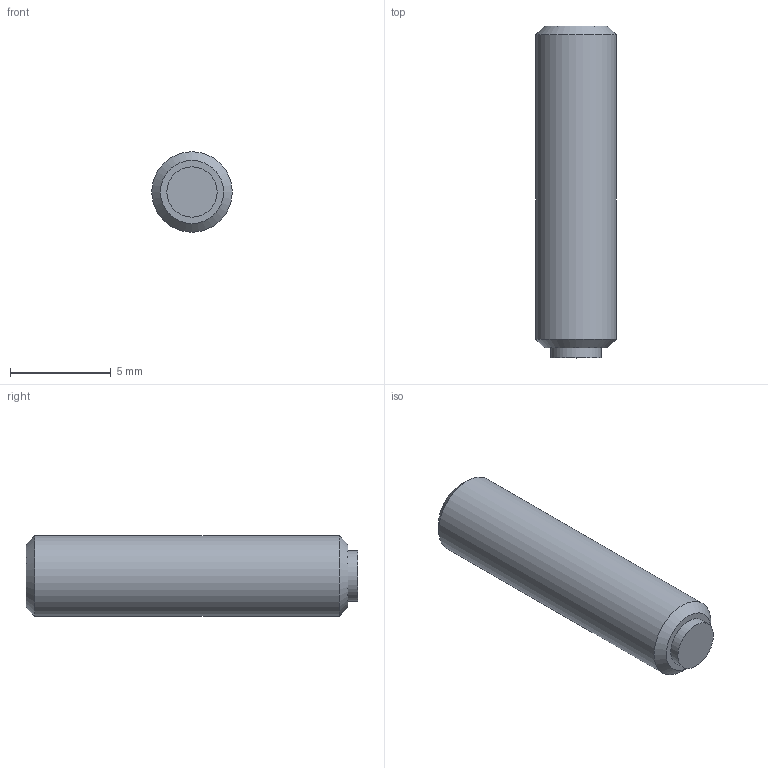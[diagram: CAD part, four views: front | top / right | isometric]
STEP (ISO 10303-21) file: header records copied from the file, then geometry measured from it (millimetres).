
FILE_DESCRIPTION( ( 'STEP AP203' ), '1' );
FILE_NAME( 'C:/Temp/Ganter_Step_05_03_2020/data/3_2/gn913_3/Grub screw GN 913.3-M4-16-MS.stp', '2020-03-13T05:35:45', ( 'License CC BY-ND 4.0' ), ( 'CADENAS' ), ' ', 'PARTsolutions', ' ' );
FILE_SCHEMA( ( 'CONFIG_CONTROL_DESIGN' ) );
Length unit declared in the file: millimetre
Products named in the file (1): _Grub screw GN 913.3-M4-16-MS
Bounding box: 4 x 16.5 x 4 mm (x, y, z)
Volume: 192.7 mm3; surface area: 240.6 mm2
Topology: 1 solids, 1 shells, 14 faces, 28 edges, 18 vertices
Faces by surface type: plane 10, cylinder 2, cone 2
Full cylindrical faces by diameter (mm): 2.5 x1, 4 x1
Entity records: 386 total; most frequent: DIRECTION 60, CARTESIAN_POINT 57, ORIENTED_EDGE 48, EDGE_CURVE 24, AXIS2_PLACEMENT_3D 21, EDGE_LOOP 20, VERTEX_POINT 18, LINE 18
